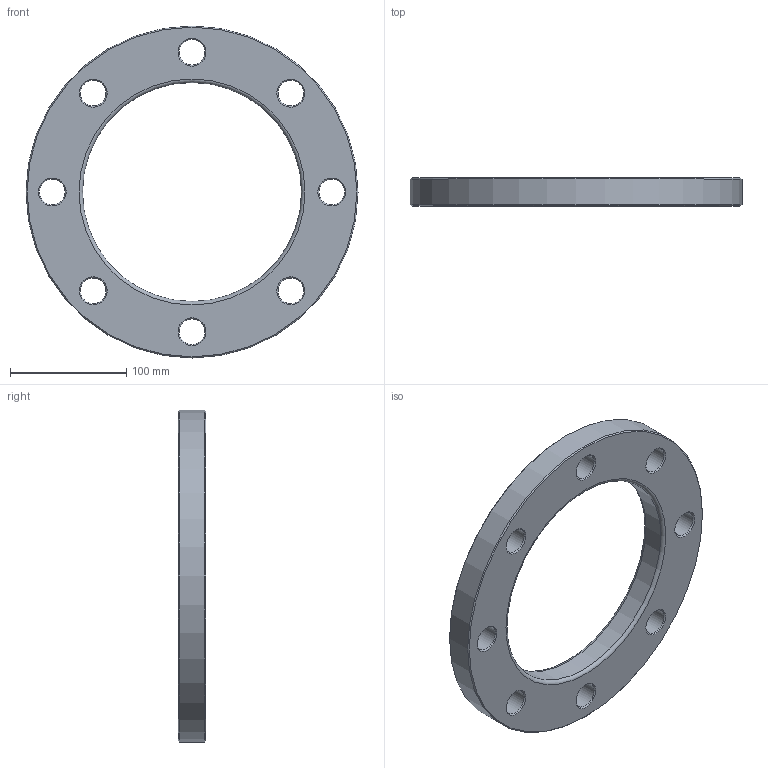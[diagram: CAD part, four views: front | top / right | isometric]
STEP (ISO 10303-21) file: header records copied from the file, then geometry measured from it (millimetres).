
FILE_DESCRIPTION(/* description */ ('Unknown'),/* implementation_level */ '2;1');
FILE_NAME(/* name */ 'FR180C',/* time_stamp */ '2022-07-05T16:56:01+02:00',/* author */ ('Unknown'),/* organization */ ('Unknown'),/* preprocessor_version */ 'ST-DEVELOPER v18.102',/* originating_system */ 'Solid Edge',/* authorisation */ 'Unknown');
FILE_SCHEMA (('AUTOMOTIVE_DESIGN {1 0 10303 214 3 1 1}'));
Length unit declared in the file: millimetre
Products named in the file (1): FR180C
Bounding box: 285 x 24 x 285 mm (x, y, z)
Volume: 788090.3 mm3; surface area: 111729.5 mm2
Topology: 1 solids, 1 shells, 32 faces, 94 edges, 64 vertices
Faces by surface type: cone 18, cylinder 10, plane 2, torus 2
Full cylindrical faces by diameter (mm): 22 x8, 188 x1, 285 x1
Entity records: 790 total; most frequent: DIRECTION 146, CARTESIAN_POINT 113, ORIENTED_EDGE 80, EDGE_LOOP 80, FACE_BOUND 80, AXIS2_PLACEMENT_3D 73, EDGE_CURVE 40, VERTEX_POINT 40
